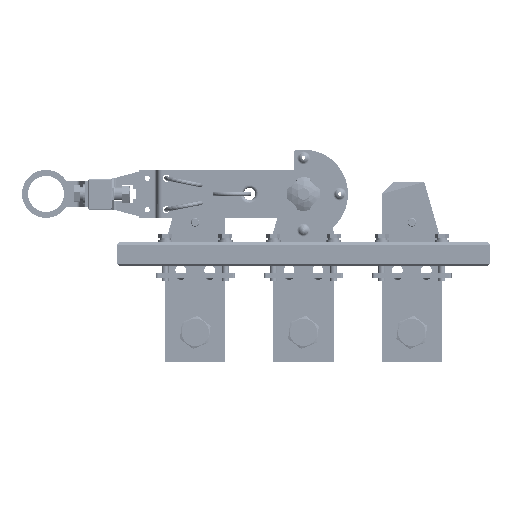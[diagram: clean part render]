
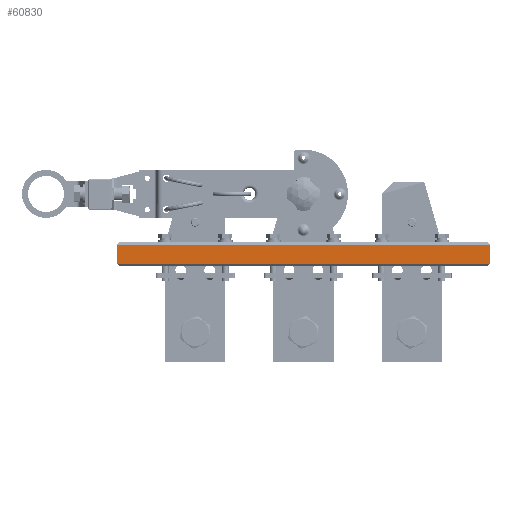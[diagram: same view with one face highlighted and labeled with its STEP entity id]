
A CAD part, left-side view. The second image highlights one B-rep face of the part: STEP entity #60830.
In plain terms, the highlighted planar face has unit normal (-1, 0, 0).
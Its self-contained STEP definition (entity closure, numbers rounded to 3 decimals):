
#1838 = AXIS2_PLACEMENT_3D ( 'NONE', #8002, #8022, #8023 ) ;
#8002 = CARTESIAN_POINT ( 'NONE',  ( -270., 155., 20. ) ) ;
#8010 = PLANE ( 'NONE',  #1838 ) ;
#8022 = DIRECTION ( 'NONE',  ( 1., 0., 0. ) ) ;
#8023 = DIRECTION ( 'NONE',  ( 0., 0., -1. ) ) ;
#10680 = FACE_OUTER_BOUND ( 'NONE', #168232, .T. ) ;
#45652 = EDGE_CURVE ( 'NONE', #128509, #128510, #62269, .T. ) ;
#60830 = ADVANCED_FACE ( 'NONE', ( #10680 ), #8010, .F. ) ;
#62269 = LINE ( 'NONE', #73525, #62287 ) ;
#62287 = VECTOR ( 'NONE', #73533, 1000. ) ;
#73525 = CARTESIAN_POINT ( 'NONE',  ( -270., 155., 20. ) ) ;
#73533 = DIRECTION ( 'NONE',  ( 0., 0., -1. ) ) ;
#124948 = EDGE_CURVE ( 'NONE', #128371, #128509, #132220, .T. ) ;
#124953 = EDGE_CURVE ( 'NONE', #128371, #128511, #132212, .T. ) ;
#128371 = VERTEX_POINT ( 'NONE', #142191 ) ;
#128509 = VERTEX_POINT ( 'NONE', #142369 ) ;
#128510 = VERTEX_POINT ( 'NONE', #142370 ) ;
#128511 = VERTEX_POINT ( 'NONE', #142371 ) ;
#132187 = VECTOR ( 'NONE', #134618, 1000. ) ;
#132209 = VECTOR ( 'NONE', #134633, 1000. ) ;
#132212 = LINE ( 'NONE', #134631, #132209 ) ;
#132220 = LINE ( 'NONE', #134582, #132187 ) ;
#134582 = CARTESIAN_POINT ( 'NONE',  ( -270., 155., 18. ) ) ;
#134618 = DIRECTION ( 'NONE',  ( 0., 1., 0. ) ) ;
#134631 = CARTESIAN_POINT ( 'NONE',  ( -270., -155., 20. ) ) ;
#134633 = DIRECTION ( 'NONE',  ( 0., 0., -1. ) ) ;
#140175 = EDGE_CURVE ( 'NONE', #128510, #128511, #159650, .T. ) ;
#142191 = CARTESIAN_POINT ( 'NONE',  ( -270., -155., 18. ) ) ;
#142369 = CARTESIAN_POINT ( 'NONE',  ( -270., 155., 18. ) ) ;
#142370 = CARTESIAN_POINT ( 'NONE',  ( -270., 155., 2. ) ) ;
#142371 = CARTESIAN_POINT ( 'NONE',  ( -270., -155., 2. ) ) ;
#149510 = ORIENTED_EDGE ( 'NONE', *, *, #45652, .T. ) ;
#149514 = ORIENTED_EDGE ( 'NONE', *, *, #140175, .T. ) ;
#149517 = ORIENTED_EDGE ( 'NONE', *, *, #124953, .F. ) ;
#149520 = ORIENTED_EDGE ( 'NONE', *, *, #124948, .T. ) ;
#159650 = LINE ( 'NONE', #164568, #159668 ) ;
#159668 = VECTOR ( 'NONE', #164575, 1000. ) ;
#164568 = CARTESIAN_POINT ( 'NONE',  ( -270., 155., 2. ) ) ;
#164575 = DIRECTION ( 'NONE',  ( 0., -1., 0. ) ) ;
#168232 = EDGE_LOOP ( 'NONE', ( #149510, #149514, #149517, #149520 ) ) ;
